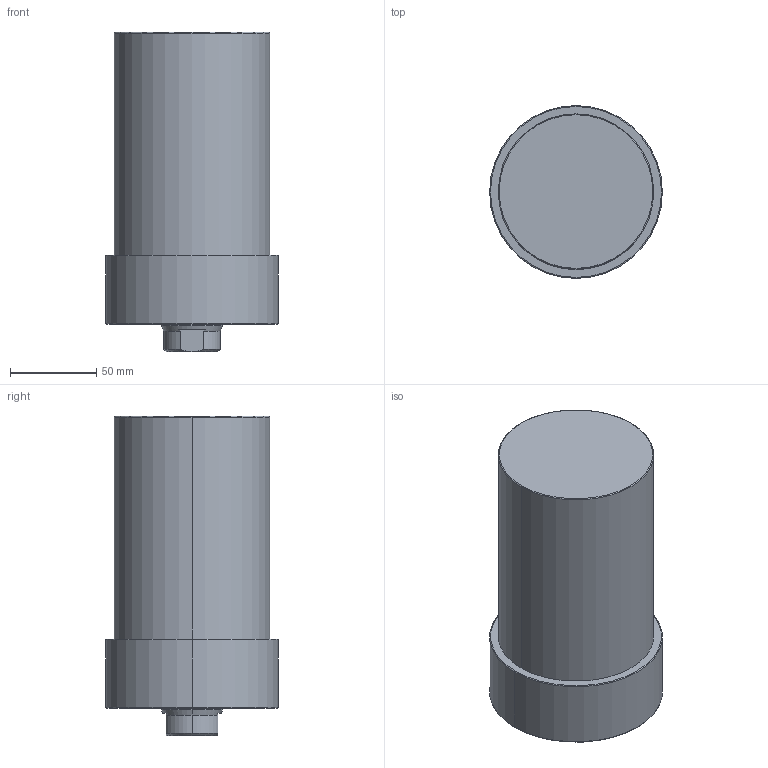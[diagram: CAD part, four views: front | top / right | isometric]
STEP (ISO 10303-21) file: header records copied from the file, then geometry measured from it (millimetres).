
FILE_DESCRIPTION (( 'STEP AP203' ), '1' );
FILE_NAME ('CLLU-090GA-085.STEP', '2020-01-13T03:33:55', ( '' ), ( '' ), 'SwSTEP 2.0', 'SolidWorks 2015', '' );
FILE_SCHEMA (( 'CONFIG_CONTROL_DESIGN' ));
Length unit declared in the file: millimetre
Products named in the file (1): CLLU-090GA-085
Bounding box: 100 x 100 x 185 mm (x, y, z)
Volume: 1128559.8 mm3; surface area: 71950.9 mm2
Topology: 1 solids, 1 shells, 64 faces, 143 edges, 80 vertices
Faces by surface type: cone 25, cylinder 23, plane 10, torus 6
Entity records: 1809 total; most frequent: DIRECTION 330, CARTESIAN_POINT 322, ORIENTED_EDGE 266, AXIS2_PLACEMENT_3D 140, EDGE_CURVE 133, VERTEX_POINT 80, CIRCLE 75, EDGE_LOOP 73
